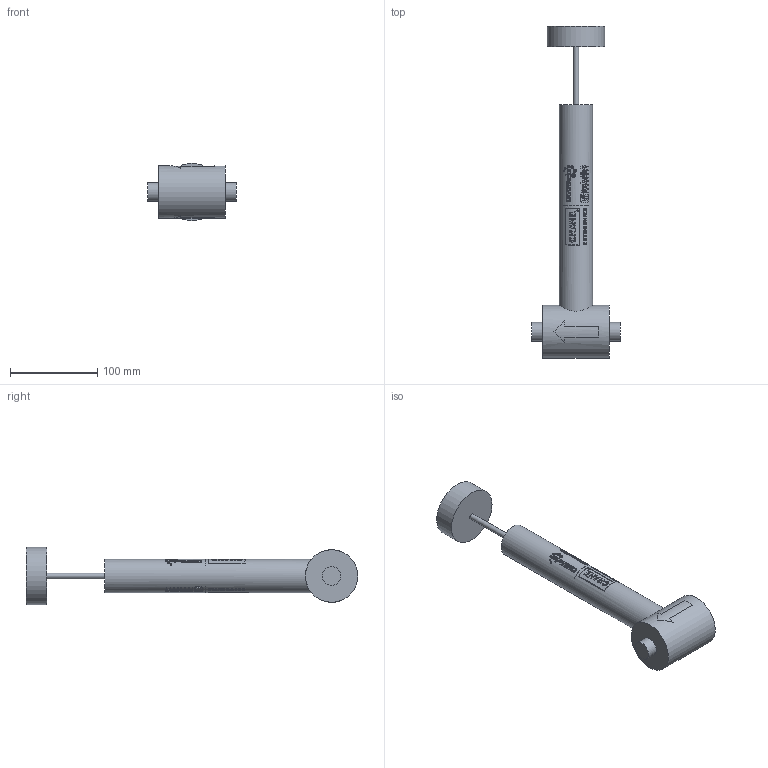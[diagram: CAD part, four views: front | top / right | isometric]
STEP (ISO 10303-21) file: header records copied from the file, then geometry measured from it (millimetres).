
FILE_DESCRIPTION (( 'STEP AP203' ), '1' );
FILE_NAME ('0.5in T-Pattern Manual TF Valve.step', '2025-12-17T20:07:34', ( '' ), ( '' ), 'SwSTEP 2.0', 'SolidWorks 2023', '' );
FILE_SCHEMA (( 'CONFIG_CONTROL_DESIGN' ));
Length unit declared in the file: inch
Products named in the file (1): 0.5in T-Pattern Manual TF Valve
Bounding box: 101.6 x 381.11 x 65.99 mm (x, y, z)
Volume: 571379.6 mm3; surface area: 70467 mm2
Topology: 1 solids, 1 shells, 1155 faces, 2971 edges, 1985 vertices
Faces by surface type: plane 743, cylinder 306, bspline 106
Full cylindrical faces by diameter (mm): 0.597 x2, 0.654 x2, 0.711 x2, 0.816 x2, 0.921 x2, 1.187 x2, 1.228 x2, 1.363 x2, 1.453 x2, 1.523 x2, 1.604 x2, 1.829 x2, 2.471 x2, 3.052 x2, 3.693 x2, 4.3 x2, 6.35 x1, 21.336 x2, 38.1 x1, 60.325 x1, 65.989 x1
Entity records: 47097 total; most frequent: CARTESIAN_POINT 21613, ORIENTED_EDGE 5812, DIRECTION 4334, EDGE_CURVE 2906, VERTEX_POINT 1978, VECTOR 1536, LINE 1536, AXIS2_PLACEMENT_3D 1399
